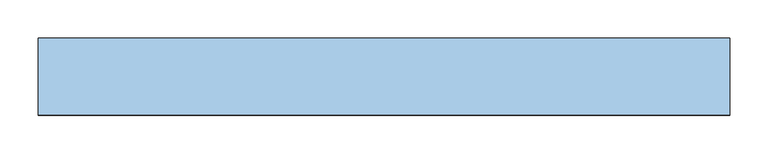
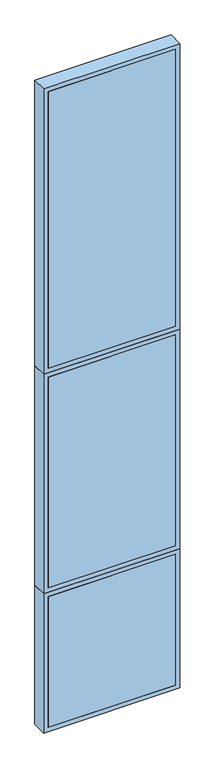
"""IFC4 building model written with IfcOpenShell, lengths in millimetres: window geometry, TRP_CP_ARC_FI_V1 : AL_P02_90."""

from ifc_helpers import new_model, si_unit, frame, origin, place, context, project, spatial, polyline, outline, extrude, source, transform, mapped, element, save


def window_13cf38aa(model_context):
    return source(origin(), model_context, "Body", "SweptSolid", [
        extrude(outline(polyline([(420.0, -50.0), (-420.0, -50.0), (-420.0, -30.0), (420.0, -30.0), (420.0, -50.0)])), frame((0.0, 0.0, 30.0), z_axis=(0.0, 0.0, 1.0), x_axis=(1.0, 0.0, 0.0)), (0.0, 0.0, 1.0), 913.0),
        extrude(outline(polyline([(973.0, 450.0), (973.0, -450.0), (0.0, -450.0), (0.0, 450.0), (973.0, 450.0)]), holes=[polyline([(30.0, 420.0), (30.0, -420.0), (943.0, -420.0), (943.0, 420.0), (30.0, 420.0)])]), frame((0.0, -50.0, 0.0), z_axis=(0.0, 1.0, 0.0), x_axis=(0.0, 0.0, 1.0)), (0.0, 0.0, 1.0), 100.0),
        extrude(outline(polyline([(2506.0, 450.0), (2506.0, -450.0), (973.0, -450.0), (973.0, 450.0), (2506.0, 450.0)]), holes=[polyline([(1003.0, 420.0), (1003.0, -420.0), (2476.0, -420.0), (2476.0, 420.0), (1003.0, 420.0)])]), frame((0.0, -50.0, 0.0), z_axis=(0.0, 1.0, 0.0), x_axis=(0.0, 0.0, 1.0)), (0.0, 0.0, 1.0), 100.0),
        extrude(outline(polyline([(420.0, -50.0), (-420.0, -50.0), (-420.0, -30.0), (420.0, -30.0), (420.0, -50.0)])), frame((0.0, 0.0, 1003.0), z_axis=(0.0, 0.0, 1.0), x_axis=(1.0, 0.0, 0.0)), (0.0, 0.0, 1.0), 1473.0),
        extrude(outline(polyline([(4500.0, 450.0), (4500.0, -450.0), (2506.0, -450.0), (2506.0, 450.0), (4500.0, 450.0)]), holes=[polyline([(2536.0, 420.0), (2536.0, -420.0), (4470.0, -420.0), (4470.0, 420.0), (2536.0, 420.0)])]), frame((0.0, -50.0, 0.0), z_axis=(0.0, 1.0, 0.0), x_axis=(0.0, 0.0, 1.0)), (0.0, 0.0, 1.0), 100.0),
        extrude(outline(polyline([(420.0, -50.0), (-420.0, -50.0), (-420.0, -30.0), (420.0, -30.0), (420.0, -50.0)])), frame((0.0, 0.0, 2536.0), z_axis=(0.0, 0.0, 1.0), x_axis=(1.0, 0.0, 0.0)), (0.0, 0.0, 1.0), 1934.0),
    ])


if __name__ == "__main__":
    model = new_model("IFC4")
    model_context = context("Model", 3, world=origin())
    ifc_project = project(units=[si_unit("LENGTHUNIT", "METRE", prefix="MILLI")], contexts=[model_context])
    site = spatial("IfcSite", under=ifc_project)
    building = spatial("IfcBuilding", under=site)
    placement = place(None, origin())
    window_shape = window_13cf38aa(model_context)
    element("IfcWindow", 1, ObjectType="TRP_CP_ARC_FI_V1 : AL_P02_90", at=placement, inside=building, context=model_context, shape_type="MappedRepresentation", body=[
        mapped(window_shape, transform((0.0, 0.0, 0.0), x_axis=(1.0, 0.0, 0.0), y_axis=(0.0, 1.0, 0.0), z_axis=(0.0, 0.0, 1.0))),
    ])
    save(model, "model.ifc")
